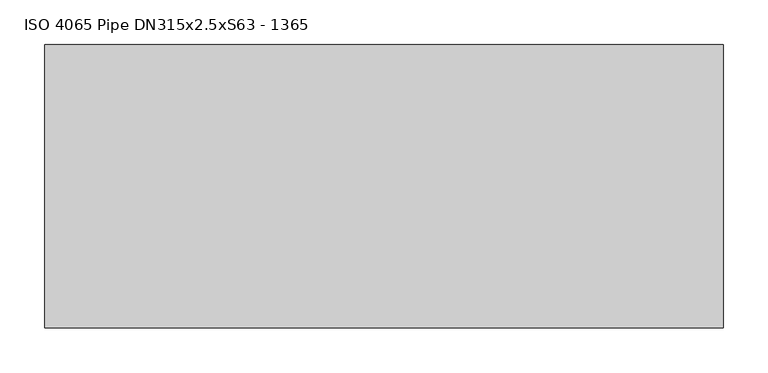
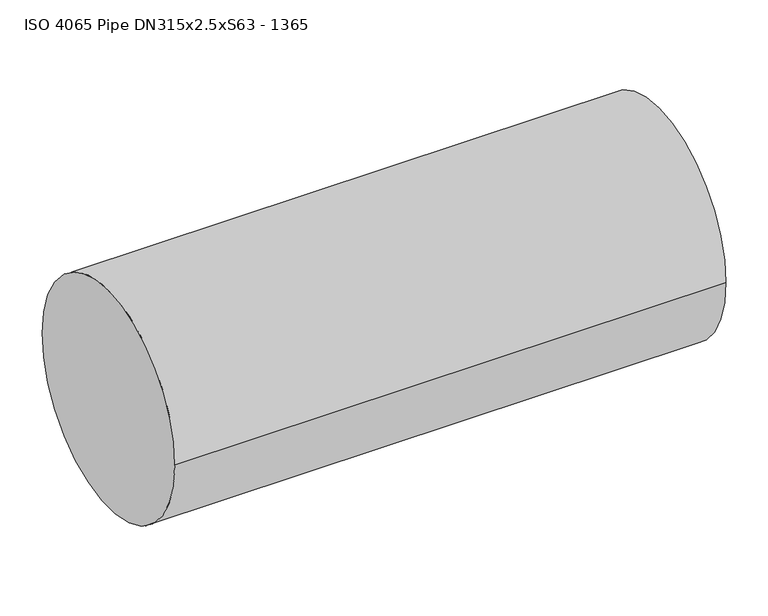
"""IFC4 building model written with IfcOpenShell, lengths in millimetres: proxy geometry, ISO 4065 Pipe DN315x2.5xS63 - 1365."""

from ifc_helpers import new_model, si_unit, point, frame, origin, origin_2d, place, context, project, spatial, circle_curve, trimmed, segment, composite_curve, outline, extrude, source, transform, mapped, element, save


def iso_4065_pipe_dn315x2_5xs63_1365_7de0bab6(model_context):
    return source(origin(), model_context, "Body", "SweptSolid", [
        extrude(outline(composite_curve([segment(trimmed(circle_curve(origin_2d(), 157.5), [point((157.5, 0.0))], [point((-157.5, 0.0))], False, "CARTESIAN"), True, "CONTINUOUS"), segment(trimmed(circle_curve(origin_2d(), 157.5), [point((-157.5, 0.0))], [point((157.5, 0.0))], False, "CARTESIAN"), True, "CONTINUOUS")], self_intersect=False)), frame((0.0, 0.0, 0.0), z_axis=(1.0, 0.0, 0.0), x_axis=(0.0, 1.0, 0.0)), (0.0, 0.0, 1.0), 754.5),
    ])


if __name__ == "__main__":
    model = new_model("IFC4")
    model_context = context("Model", 3, world=origin())
    ifc_project = project(units=[si_unit("LENGTHUNIT", "METRE", prefix="MILLI")], contexts=[model_context])
    site = spatial("IfcSite", under=ifc_project)
    building = spatial("IfcBuilding", under=site)
    placement = place(None, origin())
    iso_4065_pipe_dn315x2_5xs63_1365_shape = iso_4065_pipe_dn315x2_5xs63_1365_7de0bab6(model_context)
    element("IfcBuildingElementProxy", 1, Name="ISO 4065 Pipe DN315x2.5xS63 - 1365", ObjectType="ISO 4065 Pipe DN315x2.5xS63 - 1365", at=placement, inside=building, context=model_context, shape_type="MappedRepresentation", body=[
        mapped(iso_4065_pipe_dn315x2_5xs63_1365_shape, transform((0.0, 0.0, 0.0), x_axis=(1.0, 0.0, 0.0), y_axis=(0.0, 1.0, 0.0), z_axis=(0.0, 0.0, 1.0))),
    ])
    save(model, "model.ifc")
